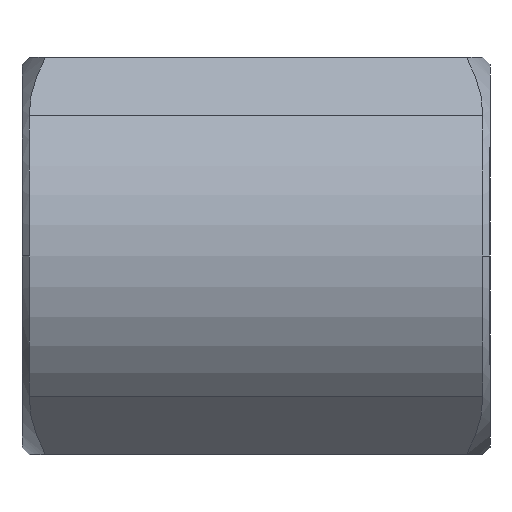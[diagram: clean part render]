
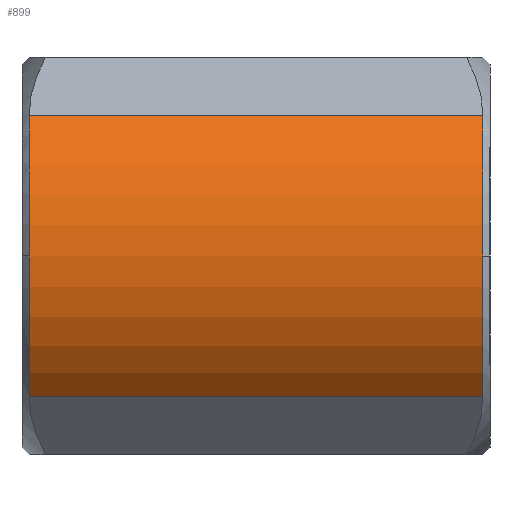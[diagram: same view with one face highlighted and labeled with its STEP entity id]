
A CAD part, left-side view. The second image highlights one B-rep face of the part: STEP entity #899.
In plain terms, the highlighted cylindrical face has radius 7 mm (diameter 14 mm), a partial arc.
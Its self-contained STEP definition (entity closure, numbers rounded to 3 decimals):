
#480 = EDGE_CURVE ( 'Defeature completata3_12+Defeature completata3_6+Defeature completata3_7+Defeature completata3_10', #1935, #1344, #4024, .T. ) ;
#540 = CARTESIAN_POINT ( 'NONE',  ( -4.95, 0.25, -4.95 ) ) ;
#622 = DIRECTION ( 'NONE',  ( 0., 0., -1. ) ) ;
#829 = EDGE_LOOP ( 'NONE', ( #4418, #7720, #855, #1571, #5257, #2742 ) ) ;
#855 = ORIENTED_EDGE ( 'NONE', *, *, #4287, .F. ) ;
#899 = ADVANCED_FACE ( 'Defeature completata3_6', ( #6364 ), #10984, .T. ) ;
#1344 = VERTEX_POINT ( 'NONE', #11744 ) ;
#1488 = EDGE_CURVE ( 'Defeature completata3_7+Defeature completata3_6+Defeature completata3_11+Defeature completata3_12', #3291, #1935, #10520, .T. ) ;
#1571 = ORIENTED_EDGE ( 'NONE', *, *, #1877, .F. ) ;
#1679 = AXIS2_PLACEMENT_3D ( 'NONE', #4366, #10827, #5307 ) ;
#1877 = EDGE_CURVE ( 'Defeature completata3_11+Defeature completata3_6+Defeature completata3_10+Defeature completata3_7', #7814, #8709, #8764, .T. ) ;
#1935 = VERTEX_POINT ( 'NONE', #8387 ) ;
#1991 = DIRECTION ( 'NONE',  ( 0., -1., 0. ) ) ;
#2259 = EDGE_CURVE ( 'Defeature completata3_6+Defeature completata3_10+Defeature completata3_11+Defeature completata3_12', #7814, #4970, #11984, .T. ) ;
#2742 = ORIENTED_EDGE ( 'NONE', *, *, #4057, .F. ) ;
#2822 = DIRECTION ( 'NONE',  ( 0., -1., 0. ) ) ;
#3210 = AXIS2_PLACEMENT_3D ( 'NONE', #8340, #2822, #9277 ) ;
#3221 = CARTESIAN_POINT ( 'NONE',  ( -4.95, 16.5, 4.95 ) ) ;
#3291 = VERTEX_POINT ( 'NONE', #5048 ) ;
#3453 = VECTOR ( 'NONE', #11543, 1000. ) ;
#3755 = CARTESIAN_POINT ( 'NONE',  ( -7., 16.25, 0. ) ) ;
#4024 = CIRCLE ( 'NONE', #3210, 7. ) ;
#4057 = EDGE_CURVE ( 'Defeature completata3_12+Defeature completata3_6+Defeature completata3_7+Defeature completata3_10', #1344, #4970, #4435, .T. ) ;
#4287 = EDGE_CURVE ( 'Defeature completata3_11+Defeature completata3_6+Defeature completata3_10+Defeature completata3_7', #8709, #3291, #8162, .T. ) ;
#4366 = CARTESIAN_POINT ( 'NONE',  ( 0., 16.25, 0. ) ) ;
#4418 = ORIENTED_EDGE ( 'NONE', *, *, #480, .F. ) ;
#4435 = CIRCLE ( 'NONE', #10572, 7. ) ;
#4970 = VERTEX_POINT ( 'NONE', #540 ) ;
#5048 = CARTESIAN_POINT ( 'NONE',  ( -4.95, 16.25, 4.95 ) ) ;
#5140 = DIRECTION ( 'NONE',  ( 0., 1., 0. ) ) ;
#5257 = ORIENTED_EDGE ( 'NONE', *, *, #2259, .T. ) ;
#5307 = DIRECTION ( 'NONE',  ( 1., 0., 0. ) ) ;
#5785 = DIRECTION ( 'NONE',  ( 0., -1., 0. ) ) ;
#6109 = AXIS2_PLACEMENT_3D ( 'NONE', #10643, #5140, #11580 ) ;
#6364 = FACE_OUTER_BOUND ( 'NONE', #829, .T. ) ;
#6377 = CARTESIAN_POINT ( 'NONE',  ( -4.95, 16.5, -4.95 ) ) ;
#7305 = DIRECTION ( 'NONE',  ( 0., -1., 0. ) ) ;
#7552 = CARTESIAN_POINT ( 'NONE',  ( 0., 0.25, 0. ) ) ;
#7720 = ORIENTED_EDGE ( 'NONE', *, *, #1488, .F. ) ;
#7814 = VERTEX_POINT ( 'NONE', #9584 ) ;
#8162 = CIRCLE ( 'NONE', #1679, 7. ) ;
#8176 = AXIS2_PLACEMENT_3D ( 'NONE', #10610, #5785, #622 ) ;
#8340 = CARTESIAN_POINT ( 'NONE',  ( 0., 0.25, 0. ) ) ;
#8387 = CARTESIAN_POINT ( 'NONE',  ( -4.95, 0.25, 4.95 ) ) ;
#8447 = DIRECTION ( 'NONE',  ( -1., 0., 0. ) ) ;
#8709 = VERTEX_POINT ( 'NONE', #3755 ) ;
#8764 = CIRCLE ( 'NONE', #6109, 7. ) ;
#9277 = DIRECTION ( 'NONE',  ( -1., 0., 0. ) ) ;
#9584 = CARTESIAN_POINT ( 'NONE',  ( -4.95, 16.25, -4.95 ) ) ;
#9792 = VECTOR ( 'NONE', #7305, 1000. ) ;
#10520 = LINE ( 'NONE', #3221, #3453 ) ;
#10572 = AXIS2_PLACEMENT_3D ( 'NONE', #7552, #1991, #8447 ) ;
#10610 = CARTESIAN_POINT ( 'NONE',  ( 0., 16.5, 0. ) ) ;
#10643 = CARTESIAN_POINT ( 'NONE',  ( 0., 16.25, 0. ) ) ;
#10827 = DIRECTION ( 'NONE',  ( 0., 1., 0. ) ) ;
#10984 = CYLINDRICAL_SURFACE ( 'NONE', #8176, 7. ) ;
#11543 = DIRECTION ( 'NONE',  ( 0., -1., 0. ) ) ;
#11580 = DIRECTION ( 'NONE',  ( 1., 0., 0. ) ) ;
#11744 = CARTESIAN_POINT ( 'NONE',  ( -7., 0.25, 0. ) ) ;
#11984 = LINE ( 'NONE', #6377, #9792 ) ;
